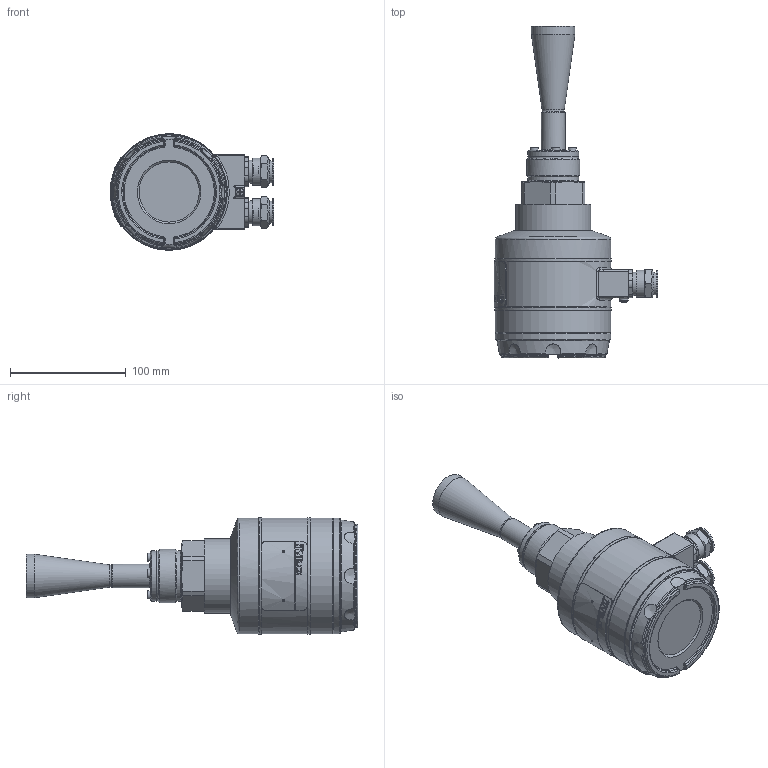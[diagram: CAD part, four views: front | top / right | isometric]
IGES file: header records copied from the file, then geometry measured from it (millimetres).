
Global section: file name: WES_140_Xház,; native system: Autodesk Inventor 2015; preprocessor: unknown; author: aantal; date: 20150713.095550; units: millimetre
Bounding box: 141.48 x 287 x 100.54 mm (x, y, z)
Volume: 1045332.1 mm3; surface area: 114250.9 mm2
Topology: 14 solids, 15 shells, 467 faces, 1162 edges, 758 vertices
Faces by surface type: bspline 467
